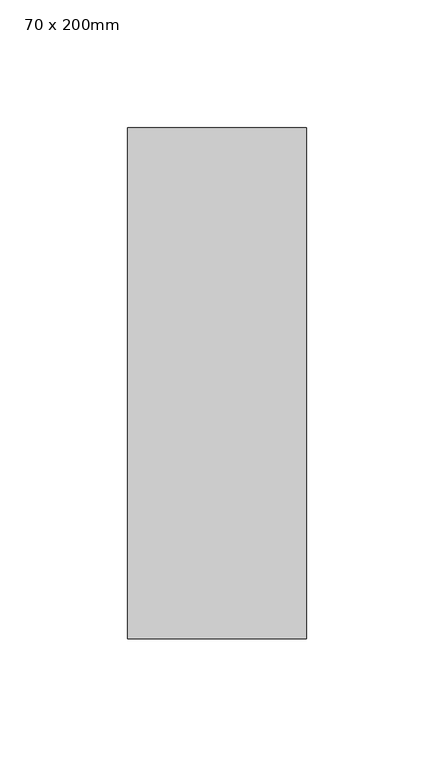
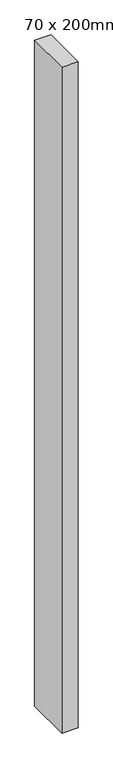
"""IFC4 building model written with IfcOpenShell, lengths in millimetres: member geometry, 矩形竖梃 : 70 x 200mm."""

from ifc_helpers import new_model, si_unit, frame, origin, place, context, project, spatial, polyline, outline, extrude, source, transform, mapped, element, save


def member_70_x_200mm_a98047c5(model_context):
    return source(origin(), model_context, "Body", "SweptSolid", [
        extrude(outline(polyline([(0.0, 100.0), (0.0, -100.0), (-70.0, -100.0), (-70.0, 100.0), (0.0, 100.0)])), frame((0.0, 0.0, -3000.0), z_axis=(0.0, 0.0, 1.0), x_axis=(1.0, 0.0, 0.0)), (0.0, 0.0, 1.0), 3000.0),
    ])


if __name__ == "__main__":
    model = new_model("IFC4")
    model_context = context("Model", 3, world=origin())
    ifc_project = project(units=[si_unit("LENGTHUNIT", "METRE", prefix="MILLI")], contexts=[model_context])
    site = spatial("IfcSite", under=ifc_project)
    building = spatial("IfcBuilding", under=site)
    placement = place(None, origin())
    member_70_x_200mm_shape = member_70_x_200mm_a98047c5(model_context)
    element("IfcMember", 1, ObjectType="矩形竖梃 : 70 x 200mm", at=placement, inside=building, context=model_context, shape_type="MappedRepresentation", body=[
        mapped(member_70_x_200mm_shape, transform((0.0, 0.0, 0.0), x_axis=(1.0, 0.0, 0.0), y_axis=(0.0, 1.0, 0.0), z_axis=(0.0, 0.0, 1.0))),
    ])
    save(model, "model.ifc")
